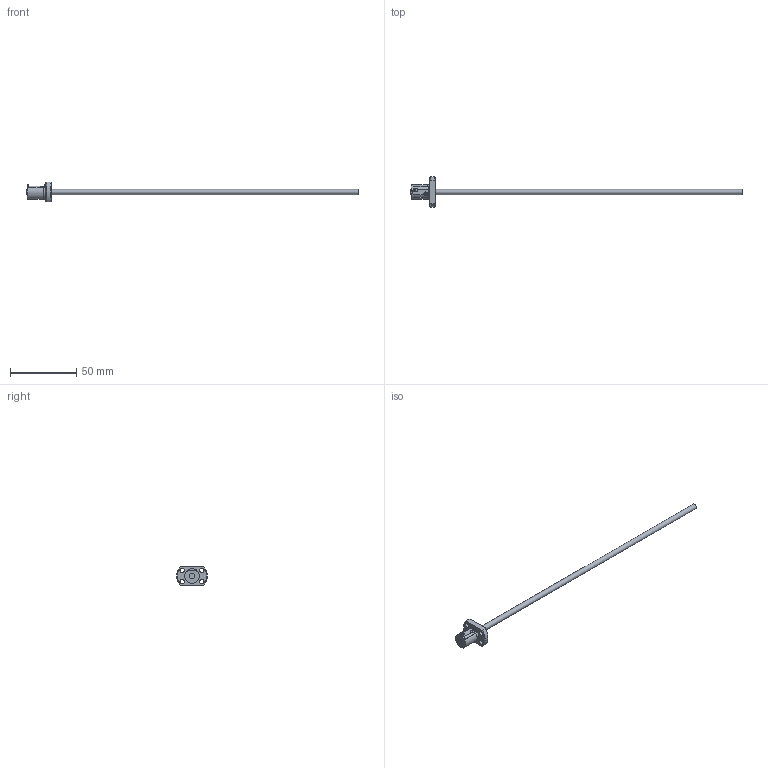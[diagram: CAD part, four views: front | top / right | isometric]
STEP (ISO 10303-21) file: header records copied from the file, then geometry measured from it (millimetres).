
FILE_DESCRIPTION( ( 'STEP AP203' ), '1' );
FILE_NAME( 'e:/temp/worker_100/temp/exporttempdir_1148_1866_brf0r/format_0/SR0402-200R250C10(0).stp', '2021-10-19T03:53:35', ( 'License CC BY-ND 4.0' ), ( 'CADENAS' ), ' ', 'PARTsolutions', ' ' );
FILE_SCHEMA( ( 'CONFIG_CONTROL_DESIGN' ) );
Length unit declared in the file: millimetre
Products named in the file (3): SR0402-200R250C10(0); _SR0402C10(0)_shaft; _SR0402C10_nut
Assembly tree (2 placements, depth 2):
  SR0402-200R250C10(0)
    _SR0402C10(0)_shaft
    _SR0402C10_nut
Bounding box: 250 x 22.93 x 15 mm (x, y, z)
Volume: 5173.9 mm3; surface area: 4895 mm2
Topology: 2 solids, 2 shells, 45 faces, 114 edges, 75 vertices
Faces by surface type: plane 24, cylinder 17, cone 4
Full cylindrical faces by diameter (mm): 3.4 x4, 4 x2, 10.6 x1, 11 x1, 12.35 x1
Entity records: 1464 total; most frequent: CARTESIAN_POINT 288, DIRECTION 230, ORIENTED_EDGE 204, EDGE_CURVE 102, AXIS2_PLACEMENT_3D 94, VERTEX_POINT 72, EDGE_LOOP 66, FACE_OUTER_BOUND 54
